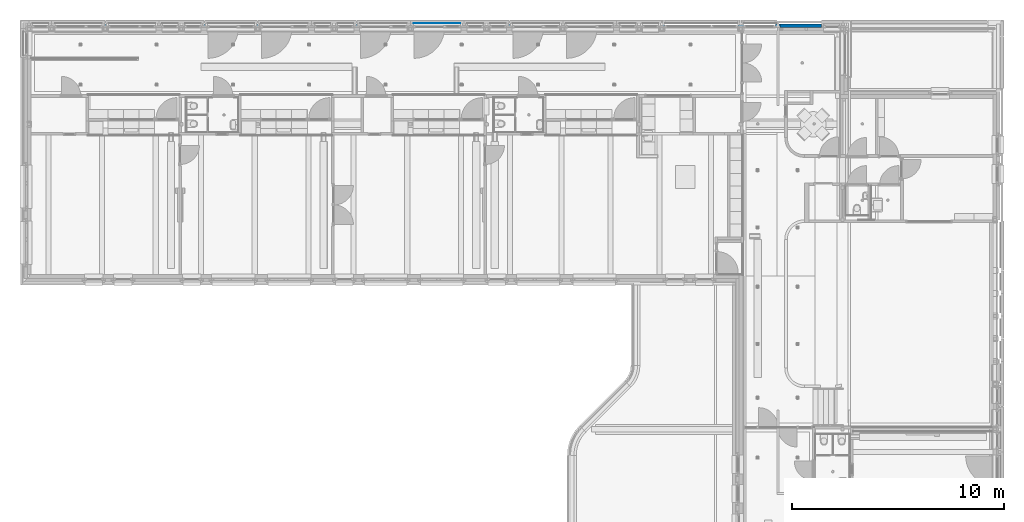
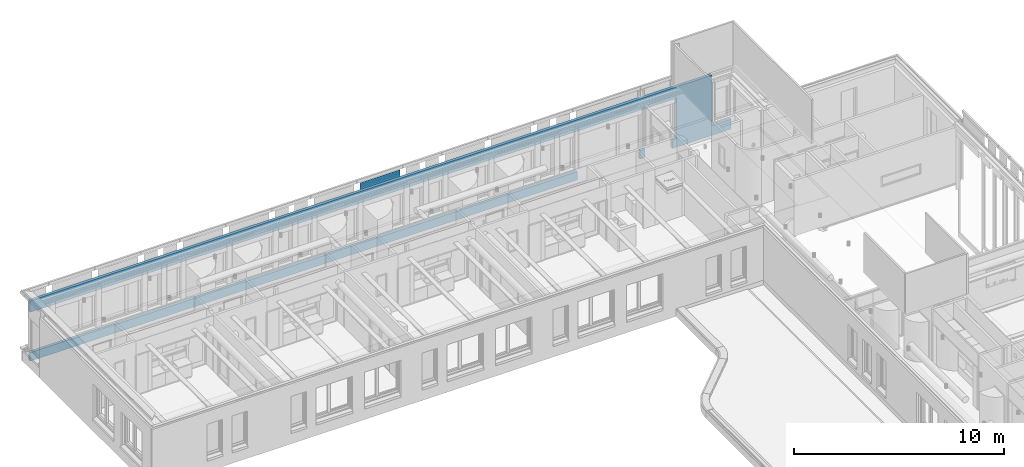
# One storey, part 53 of 128: 2 walls, 21 openings.
"""IFC2X3 building model written with IfcOpenShell, lengths in millimetres."""

from ifc_helpers import new_model, entity, si_unit, converted_unit, derived_unit, direction, frame, frame_2d, origin, place, context, subcontext, project, spatial, rectangle, extrude, material, layer, layer_set, layer_usage, type_object, element, save


model = new_model("IFC2X3")

# Units and contexts
model_context = context("Model", 3, precision=0.01, world=origin(), true_north=direction((6.123031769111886e-17, 1.0)))
body_context = subcontext(model_context, "Body", "Model", "MODEL_VIEW")
ifc_project = project(units=[si_unit("LENGTHUNIT", "METRE", prefix="MILLI"), si_unit("AREAUNIT", "SQUARE_METRE"), si_unit("VOLUMEUNIT", "CUBIC_METRE"), converted_unit("PLANEANGLEUNIT", "DEGREE", entity("IfcRatioMeasure", 0.017453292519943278), si_unit("PLANEANGLEUNIT", "RADIAN"), dimensions=[0, 0, 0, 0, 0, 0, 0]), si_unit("MASSUNIT", "GRAM", prefix="KILO"), derived_unit("MASSDENSITYUNIT", [(si_unit("MASSUNIT", "GRAM", prefix="KILO"), 1), (si_unit("LENGTHUNIT", "METRE"), -3)]), derived_unit("IONCONCENTRATIONUNIT", [(si_unit("MASSUNIT", "GRAM", prefix="KILO"), 1), (si_unit("LENGTHUNIT", "METRE"), -3)]), derived_unit("MOMENTOFINERTIAUNIT", [(si_unit("LENGTHUNIT", "METRE"), 4)]), si_unit("TIMEUNIT", "SECOND"), si_unit("FREQUENCYUNIT", "HERTZ"), si_unit("THERMODYNAMICTEMPERATUREUNIT", "DEGREE_CELSIUS"), derived_unit("THERMALTRANSMITTANCEUNIT", [(si_unit("MASSUNIT", "GRAM", prefix="KILO"), 1), (si_unit("THERMODYNAMICTEMPERATUREUNIT", "KELVIN"), -1), (si_unit("TIMEUNIT", "SECOND"), -3)]), derived_unit("THERMALCONDUCTANCEUNIT", [(si_unit("MASSUNIT", "GRAM", prefix="KILO"), 1), (si_unit("THERMODYNAMICTEMPERATUREUNIT", "KELVIN"), -1), (si_unit("TIMEUNIT", "SECOND"), -3), (si_unit("LENGTHUNIT", "METRE"), 1)]), derived_unit("VOLUMETRICFLOWRATEUNIT", [(si_unit("LENGTHUNIT", "METRE"), 3), (si_unit("TIMEUNIT", "SECOND"), -1)]), derived_unit("MASSFLOWRATEUNIT", [(si_unit("MASSUNIT", "GRAM", prefix="KILO"), 1), (si_unit("TIMEUNIT", "SECOND"), -1)]), derived_unit("ROTATIONALFREQUENCYUNIT", [(si_unit("TIMEUNIT", "SECOND"), -1)]), si_unit("ELECTRICCURRENTUNIT", "AMPERE"), si_unit("ELECTRICVOLTAGEUNIT", "VOLT"), si_unit("POWERUNIT", "WATT"), si_unit("FORCEUNIT", "NEWTON", prefix="KILO"), si_unit("ILLUMINANCEUNIT", "LUX"), si_unit("LUMINOUSFLUXUNIT", "LUMEN"), si_unit("LUMINOUSINTENSITYUNIT", "CANDELA"), derived_unit("USERDEFINED", [(si_unit("MASSUNIT", "GRAM", prefix="KILO"), -1), (si_unit("LENGTHUNIT", "METRE"), -2), (si_unit("TIMEUNIT", "SECOND"), 3), (si_unit("LUMINOUSFLUXUNIT", "LUMEN"), 1)]), derived_unit("USERDEFINED", [(si_unit("MASSUNIT", "GRAM", prefix="KILO"), 1), (si_unit("TIMEUNIT", "SECOND"), -3), (si_unit("LENGTHUNIT", "METRE"), 3), (si_unit("ELECTRICCURRENTUNIT", "AMPERE"), -2)]), derived_unit("SOUNDPOWERUNIT", [(si_unit("MASSUNIT", "GRAM", prefix="KILO"), 1), (si_unit("TIMEUNIT", "SECOND"), -3), (si_unit("LENGTHUNIT", "METRE"), 2)]), derived_unit("SOUNDPRESSUREUNIT", [(si_unit("MASSUNIT", "GRAM", prefix="KILO"), 1), (si_unit("LENGTHUNIT", "METRE"), -1), (si_unit("TIMEUNIT", "SECOND"), -2)]), derived_unit("LINEARVELOCITYUNIT", [(si_unit("LENGTHUNIT", "METRE"), 1), (si_unit("TIMEUNIT", "SECOND"), -1)]), si_unit("PRESSUREUNIT", "PASCAL"), derived_unit("USERDEFINED", [(si_unit("MASSUNIT", "GRAM", prefix="KILO"), 1), (si_unit("LENGTHUNIT", "METRE"), -2), (si_unit("TIMEUNIT", "SECOND"), -2)]), derived_unit("LINEARFORCEUNIT", [(si_unit("MASSUNIT", "GRAM", prefix="KILO"), 1), (si_unit("TIMEUNIT", "SECOND"), -2)]), derived_unit("PLANARFORCEUNIT", [(si_unit("MASSUNIT", "GRAM", prefix="KILO"), 1), (si_unit("LENGTHUNIT", "METRE"), -1), (si_unit("TIMEUNIT", "SECOND"), -2)]), derived_unit("SPECIFICHEATCAPACITYUNIT", [(si_unit("THERMODYNAMICTEMPERATUREUNIT", "KELVIN"), -1), (si_unit("LENGTHUNIT", "METRE"), 2), (si_unit("TIMEUNIT", "SECOND"), -2)]), derived_unit("HEATINGVALUEUNIT", [(si_unit("LENGTHUNIT", "METRE"), 2), (si_unit("TIMEUNIT", "SECOND"), -2)]), derived_unit("VAPORPERMEABILITYUNIT", [(si_unit("LENGTHUNIT", "METRE"), -1), (si_unit("TIMEUNIT", "SECOND"), 1)]), derived_unit("DYNAMICVISCOSITYUNIT", [(si_unit("MASSUNIT", "GRAM", prefix="KILO"), 1), (si_unit("TIMEUNIT", "SECOND"), -1), (si_unit("LENGTHUNIT", "METRE"), -1)]), derived_unit("THERMALEXPANSIONCOEFFICIENTUNIT", [(si_unit("THERMODYNAMICTEMPERATUREUNIT", "KELVIN"), -1)]), derived_unit("MODULUSOFELASTICITYUNIT", [(si_unit("MASSUNIT", "GRAM", prefix="KILO"), 1), (si_unit("LENGTHUNIT", "METRE"), -1), (si_unit("TIMEUNIT", "SECOND"), -2)]), derived_unit("ISOTHERMALMOISTURECAPACITYUNIT", [(si_unit("LENGTHUNIT", "METRE"), 3), (si_unit("MASSUNIT", "GRAM", prefix="KILO"), -1)]), derived_unit("MOISTUREDIFFUSIVITYUNIT", [(si_unit("TIMEUNIT", "SECOND"), -1), (si_unit("LENGTHUNIT", "METRE"), 2)])], contexts=[model_context])

# Site, building, storey
site_placement = place(None, frame((0.0, 300.0, 0.0)))
site = spatial("IfcSite", under=ifc_project, at=site_placement, Name="<Kadastrale nummers>", CompositionType="ELEMENT")
building_placement = place(site_placement, origin())
building = spatial("IfcBuilding", under=site, at=building_placement, CompositionType="ELEMENT")
storey_placement = place(building_placement, frame((0.0, 0.0, 3560.0000331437)))
storey = spatial("IfcBuildingStorey", under=building, at=storey_placement, Name="01 eerste verdieping", CompositionType="ELEMENT", Elevation=3560.0000331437)

# Wall, openings
ifc_material_1 = material(Name="ISR_Isolatie")
ifc_layer_1 = layer(ifc_material_1, 160.0)
ifc_layer_set_1 = layer_set([ifc_layer_1], Name="Basic Wall:21_DAT_isolatie minerale wol_160")
ifc_layer_usage_1 = layer_usage(ifc_layer_set_1, "AXIS2", "NEGATIVE", 80.0)
wall_type_1 = type_object("IfcWallType", Name="Basic Wall:21_DAT_isolatie minerale wol_160", PredefinedType="STANDARD", material=ifc_layer_set_1)
wall_1_placement = place(storey_placement, frame((2925.0, 49955.0, 90.00000187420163)))
wall_1 = element("IfcWallStandardCase", 1, at=wall_1_placement, inside=storey, type_object=wall_type_1, material=ifc_layer_usage_1, Name="Basic Wall:21_DAT_isolatie minerale wol_160", ObjectType="Basic Wall:21_DAT_isolatie minerale wol_160", context=body_context, shape_type="SweptSolid", body=[
    extrude(rectangle(XDim=38542.99999999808, YDim=159.99999999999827, at=frame_2d((19271.49999999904, 1.4637180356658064e-12), x_axis=(-1.0, 0.0))), origin(), (0.0, 0.0, 1.0), 3499.999999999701),
])
opening_1_placement = place(wall_1_placement, origin())
element("IfcOpeningElement", 2, at=opening_1_placement, cuts=wall_1, Name="Basic Wall:21_DAT_isolatie minerale wol_160", ObjectType="Opening", context=body_context, shape_type="SweptSolid", body=[
    extrude(rectangle(XDim=1929.9999649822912, YDim=790.0000000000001, at=frame_2d((0.0, 0.0), x_axis=(0.0, 1.0))), frame((610.0, -232.39999999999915, 1774.9999824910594), z_axis=(0.0, 1.0, 0.0), x_axis=(-1.0, 0.0, 0.0)), (0.0, 0.0, 1.0), 464.7999999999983),
])
opening_2_placement = place(wall_1_placement, origin())
element("IfcOpeningElement", 3, at=opening_2_placement, cuts=wall_1, Name="Basic Wall:21_DAT_isolatie minerale wol_160", ObjectType="Opening", context=body_context, shape_type="SweptSolid", body=[
    extrude(rectangle(XDim=1929.9999649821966, YDim=2250.0, at=frame_2d((3.410605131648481e-13, -2.8421709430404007e-13), x_axis=(0.0, 1.0))), frame((2410.0, -232.39999999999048, 1774.9999824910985), z_axis=(0.0, 1.0, 0.0), x_axis=(-1.0, 0.0, 0.0)), (0.0, 0.0, 1.0), 464.7999999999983),
])
opening_3_placement = place(wall_1_placement, origin())
element("IfcOpeningElement", 4, at=opening_3_placement, cuts=wall_1, Name="Basic Wall:21_DAT_isolatie minerale wol_160", ObjectType="Opening", context=body_context, shape_type="SweptSolid", body=[
    extrude(rectangle(XDim=1929.9999649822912, YDim=789.9999999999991, at=frame_2d((5.400124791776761e-13, 0.0), x_axis=(0.0, 1.0))), frame((6740.0, -232.39999999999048, 1774.9999824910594), z_axis=(0.0, 1.0, 0.0), x_axis=(-1.0, 0.0, 0.0)), (0.0, 0.0, 1.0), 464.7999999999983),
])
opening_4_placement = place(wall_1_placement, origin())
element("IfcOpeningElement", 5, at=opening_4_placement, cuts=wall_1, Name="Basic Wall:21_DAT_isolatie minerale wol_160", ObjectType="Opening", context=body_context, shape_type="SweptSolid", body=[
    extrude(rectangle(XDim=1929.9999649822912, YDim=789.999999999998, at=frame_2d((0.0, 0.0), x_axis=(0.0, 1.0))), frame((7810.0, -232.39999999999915, 1774.9999824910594), z_axis=(0.0, 1.0, 0.0), x_axis=(-1.0, 0.0, 0.0)), (0.0, 0.0, 1.0), 464.7999999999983),
])
opening_5_placement = place(wall_1_placement, origin())
element("IfcOpeningElement", 6, at=opening_5_placement, cuts=wall_1, Name="Basic Wall:21_DAT_isolatie minerale wol_160", ObjectType="Opening", context=body_context, shape_type="SweptSolid", body=[
    extrude(rectangle(XDim=1929.9999649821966, YDim=2250.000000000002, at=frame_2d((1.1368683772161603e-12, -2.8421709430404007e-13), x_axis=(0.0, 1.0))), frame((9610.0, -232.39999999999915, 1774.9999824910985), z_axis=(0.0, 1.0, 0.0), x_axis=(-1.0, 0.0, 0.0)), (0.0, 0.0, 1.0), 464.7999999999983),
])
opening_6_placement = place(wall_1_placement, origin())
element("IfcOpeningElement", 7, at=opening_6_placement, cuts=wall_1, Name="Basic Wall:21_DAT_isolatie minerale wol_160", ObjectType="Opening", context=body_context, shape_type="SweptSolid", body=[
    extrude(rectangle(XDim=1929.9999649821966, YDim=2249.9999999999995, at=frame_2d((0.0, -2.8421709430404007e-13), x_axis=(0.0, 1.0))), frame((12140.0, -232.39999999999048, 1774.9999824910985), z_axis=(0.0, 1.0, 0.0), x_axis=(-1.0, 0.0, 0.0)), (0.0, 0.0, 1.0), 464.7999999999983),
])
opening_7_placement = place(wall_1_placement, origin())
element("IfcOpeningElement", 8, at=opening_7_placement, cuts=wall_1, Name="Basic Wall:21_DAT_isolatie minerale wol_160", ObjectType="Opening", context=body_context, shape_type="SweptSolid", body=[
    extrude(rectangle(XDim=1929.9999649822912, YDim=789.999999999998, at=frame_2d((-2.1600499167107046e-12, 0.0), x_axis=(0.0, 1.0))), frame((13940.0, -232.39999999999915, 1774.9999824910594), z_axis=(0.0, 1.0, 0.0), x_axis=(-1.0, 0.0, 0.0)), (0.0, 0.0, 1.0), 464.7999999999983),
])
opening_8_placement = place(wall_1_placement, origin())
element("IfcOpeningElement", 9, at=opening_8_placement, cuts=wall_1, Name="Basic Wall:21_DAT_isolatie minerale wol_160", ObjectType="Opening", context=body_context, shape_type="SweptSolid", body=[
    extrude(rectangle(XDim=1929.9999649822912, YDim=789.999999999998, at=frame_2d((-2.1600499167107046e-12, 0.0), x_axis=(0.0, 1.0))), frame((15010.0, -232.39999999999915, 1774.9999824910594), z_axis=(0.0, 1.0, 0.0), x_axis=(-1.0, 0.0, 0.0)), (0.0, 0.0, 1.0), 464.7999999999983),
])
opening_9_placement = place(wall_1_placement, origin())
element("IfcOpeningElement", 10, at=opening_9_placement, cuts=wall_1, Name="Basic Wall:21_DAT_isolatie minerale wol_160", ObjectType="Opening", context=body_context, shape_type="SweptSolid", body=[
    extrude(rectangle(XDim=1929.9999649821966, YDim=2249.9999999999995, at=frame_2d((0.0, -2.8421709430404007e-13), x_axis=(0.0, 1.0))), frame((16810.0, -232.39999999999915, 1774.9999824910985), z_axis=(0.0, 1.0, 0.0), x_axis=(-1.0, 0.0, 0.0)), (0.0, 0.0, 1.0), 464.7999999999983),
])
opening_10_placement = place(wall_1_placement, origin())
element("IfcOpeningElement", 11, at=opening_10_placement, cuts=wall_1, Name="Basic Wall:21_DAT_isolatie minerale wol_160", ObjectType="Opening", context=body_context, shape_type="SweptSolid", body=[
    extrude(rectangle(XDim=1929.9999649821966, YDim=2249.9999999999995, at=frame_2d((0.0, -2.8421709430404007e-13), x_axis=(0.0, 1.0))), frame((19340.0, -232.40000000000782, 1774.9999824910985), z_axis=(0.0, 1.0, 0.0), x_axis=(-1.0, 0.0, 0.0)), (0.0, 0.0, 1.0), 464.7999999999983),
])
opening_11_placement = place(wall_1_placement, origin())
element("IfcOpeningElement", 12, at=opening_11_placement, cuts=wall_1, Name="Basic Wall:21_DAT_isolatie minerale wol_160", ObjectType="Opening", context=body_context, shape_type="SweptSolid", body=[
    extrude(rectangle(XDim=1929.9999649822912, YDim=789.999999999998, at=frame_2d((-2.1600499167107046e-12, 0.0), x_axis=(0.0, 1.0))), frame((21140.0, -232.39999999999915, 1774.9999824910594), z_axis=(0.0, 1.0, 0.0), x_axis=(-1.0, 0.0, 0.0)), (0.0, 0.0, 1.0), 464.7999999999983),
])
opening_12_placement = place(wall_1_placement, origin())
element("IfcOpeningElement", 13, at=opening_12_placement, cuts=wall_1, Name="Basic Wall:21_DAT_isolatie minerale wol_160", ObjectType="Opening", context=body_context, shape_type="SweptSolid", body=[
    extrude(rectangle(XDim=1929.9999649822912, YDim=789.999999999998, at=frame_2d((-2.1600499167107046e-12, 0.0), x_axis=(0.0, 1.0))), frame((22210.0, -232.39999999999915, 1774.9999824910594), z_axis=(0.0, 1.0, 0.0), x_axis=(-1.0, 0.0, 0.0)), (0.0, 0.0, 1.0), 464.7999999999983),
])
opening_13_placement = place(wall_1_placement, origin())
element("IfcOpeningElement", 14, at=opening_13_placement, cuts=wall_1, Name="Basic Wall:21_DAT_isolatie minerale wol_160", ObjectType="Opening", context=body_context, shape_type="SweptSolid", body=[
    extrude(rectangle(XDim=1929.9999649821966, YDim=2249.9999999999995, at=frame_2d((4.320099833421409e-12, -2.8421709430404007e-13), x_axis=(0.0, 1.0))), frame((24010.0, -232.39999999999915, 1774.9999824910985), z_axis=(0.0, 1.0, 0.0), x_axis=(-1.0, 0.0, 0.0)), (0.0, 0.0, 1.0), 464.7999999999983),
])
opening_14_placement = place(wall_1_placement, origin())
element("IfcOpeningElement", 15, at=opening_14_placement, cuts=wall_1, Name="Basic Wall:21_DAT_isolatie minerale wol_160", ObjectType="Opening", context=body_context, shape_type="SweptSolid", body=[
    extrude(rectangle(XDim=1929.9999649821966, YDim=2249.9999999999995, at=frame_2d((4.320099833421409e-12, -2.8421709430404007e-13), x_axis=(0.0, 1.0))), frame((26540.0, -232.39999999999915, 1774.9999824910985), z_axis=(0.0, 1.0, 0.0), x_axis=(-1.0, 0.0, 0.0)), (0.0, 0.0, 1.0), 464.7999999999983),
])
opening_15_placement = place(wall_1_placement, origin())
element("IfcOpeningElement", 16, at=opening_15_placement, cuts=wall_1, Name="Basic Wall:21_DAT_isolatie minerale wol_160", ObjectType="Opening", context=body_context, shape_type="SweptSolid", body=[
    extrude(rectangle(XDim=1929.9999649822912, YDim=789.999999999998, at=frame_2d((-2.1600499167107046e-12, 0.0), x_axis=(0.0, 1.0))), frame((28340.0, -232.39999999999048, 1774.9999824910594), z_axis=(0.0, 1.0, 0.0), x_axis=(-1.0, 0.0, 0.0)), (0.0, 0.0, 1.0), 464.7999999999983),
])
opening_16_placement = place(wall_1_placement, origin())
element("IfcOpeningElement", 17, at=opening_16_placement, cuts=wall_1, Name="Basic Wall:21_DAT_isolatie minerale wol_160", ObjectType="Opening", context=body_context, shape_type="SweptSolid", body=[
    extrude(rectangle(XDim=1929.9999649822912, YDim=789.999999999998, at=frame_2d((-2.1600499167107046e-12, 0.0), x_axis=(0.0, 1.0))), frame((29410.0, -232.39999999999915, 1774.9999824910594), z_axis=(0.0, 1.0, 0.0), x_axis=(-1.0, 0.0, 0.0)), (0.0, 0.0, 1.0), 464.7999999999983),
])
opening_17_placement = place(wall_1_placement, origin())
element("IfcOpeningElement", 18, at=opening_17_placement, cuts=wall_1, Name="Basic Wall:21_DAT_isolatie minerale wol_160", ObjectType="Opening", context=body_context, shape_type="SweptSolid", body=[
    extrude(rectangle(XDim=2759.9999649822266, YDim=1495.0000000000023, at=frame_2d((-2.1600499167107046e-12, -2.2737367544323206e-13), x_axis=(0.0, 1.0))), frame((34562.50000000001, -232.39999999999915, 1359.9999824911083), z_axis=(0.0, 1.0, 0.0), x_axis=(-1.0, 0.0, 0.0)), (0.0, 0.0, 1.0), 464.7999999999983),
])
opening_18_placement = place(wall_1_placement, origin())
element("IfcOpeningElement", 19, at=opening_18_placement, cuts=wall_1, Name="Basic Wall:21_DAT_isolatie minerale wol_160", ObjectType="Opening", context=body_context, shape_type="SweptSolid", body=[
    extrude(rectangle(XDim=2759.9999649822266, YDim=3450.000000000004, at=frame_2d((0.0, -2.2737367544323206e-13), x_axis=(0.0, 1.0))), frame((31810.0, -232.39999999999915, 1359.9999824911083), z_axis=(0.0, 1.0, 0.0), x_axis=(-1.0, 0.0, 0.0)), (0.0, 0.0, 1.0), 464.7999999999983),
])
opening_19_placement = place(wall_1_placement, origin())
element("IfcOpeningElement", 20, at=opening_19_placement, cuts=wall_1, Name="Basic Wall:21_DAT_isolatie minerale wol_160", ObjectType="Opening", context=body_context, shape_type="SweptSolid", body=[
    extrude(rectangle(XDim=2350.517002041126, YDim=35530.0, at=frame_2d((-3.410605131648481e-13, 0.0), x_axis=(1.0, 0.0))), frame((17765.0, -232.39999999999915, 1662.7585010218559), z_axis=(0.0, 1.0, 0.0), x_axis=(0.0, 0.0, 1.0)), (0.0, 0.0, 1.0), 464.7999999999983),
])
opening_20_placement = place(wall_1_placement, origin())
element("IfcOpeningElement", 21, at=opening_20_placement, cuts=wall_1, Name="Basic Wall:21_DAT_isolatie minerale wol_160", ObjectType="Opening", context=body_context, shape_type="SweptSolid", body=[
    extrude(rectangle(XDim=1929.9999649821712, YDim=789.9999999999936, at=frame_2d((0.0, 5.684341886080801e-13), x_axis=(0.0, 1.0))), frame((37969.0, -232.39999999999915, 1774.999982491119), z_axis=(0.0, 1.0, 0.0), x_axis=(-1.0, 0.0, 0.0)), (0.0, 0.0, 1.0), 464.7999999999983),
])
opening_21_placement = place(wall_1_placement, origin())
element("IfcOpeningElement", 22, at=opening_21_placement, cuts=wall_1, Name="Basic Wall:21_DAT_isolatie minerale wol_160", ObjectType="Opening", context=body_context, shape_type="SweptSolid", body=[
    extrude(rectangle(XDim=2937.499999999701, YDim=1126.9999999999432, at=frame_2d((-2.2737367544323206e-13, 4.376943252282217e-12), x_axis=(1.0, 0.0))), frame((38056.50000000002, -232.39999999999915, 2031.2499999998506), z_axis=(0.0, 1.0, 0.0), x_axis=(0.0, 0.0, 1.0)), (0.0, 0.0, 1.0), 464.7999999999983),
])

# Wall
ifc_material_2 = material(Name="STAAL_RAL 7006")
ifc_layer_2 = layer(ifc_material_2, 2.0)
ifc_layer_set_2 = layer_set([ifc_layer_2], Name="Basic Wall:21_DAT_zetwerk_2")
ifc_layer_usage_2 = layer_usage(ifc_layer_set_2, "AXIS2", "NEGATIVE", 1.000000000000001)
wall_type_2 = type_object("IfcWallType", Name="Basic Wall:21_DAT_zetwerk_2", PredefinedType="STANDARD", material=ifc_layer_set_2)
wall_2_placement = place(storey_placement, frame((21168.0, 50071.0, 2829.9999668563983)))
element("IfcWallStandardCase", 23, at=wall_2_placement, inside=storey, type_object=wall_type_2, material=ifc_layer_usage_2, Name="Basic Wall:21_DAT_zetwerk_2", ObjectType="Basic Wall:21_DAT_zetwerk_2", context=body_context, shape_type="SweptSolid", body=[
    extrude(rectangle(XDim=2194.0000000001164, YDim=1.9999999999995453, at=frame_2d((1097.0000000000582, 1.4378498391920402e-12), x_axis=(-1.0, 0.0))), origin(), (0.0, 0.0, 1.0), 1120.0000000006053),
])

save(model, "model.ifc")
